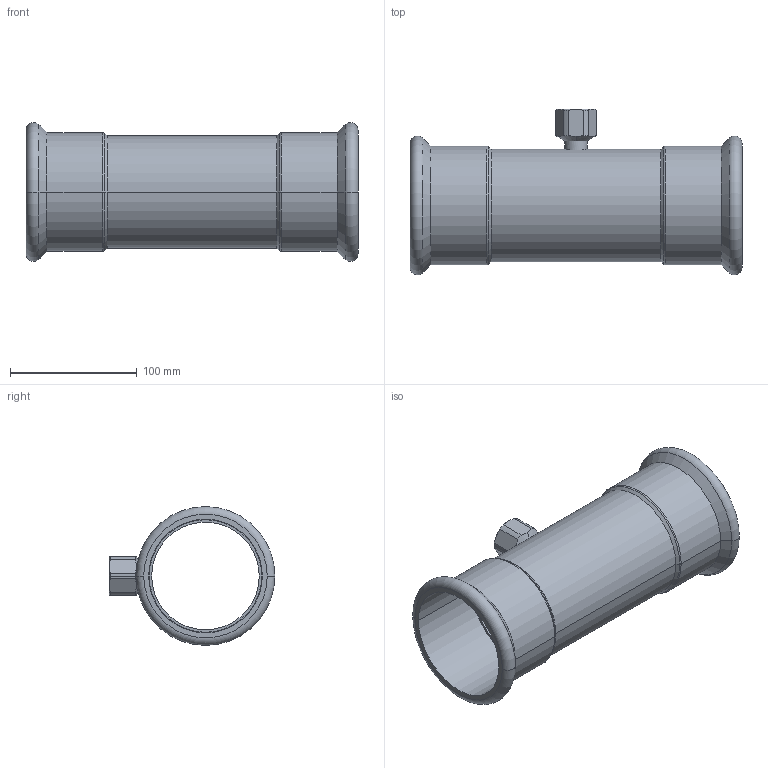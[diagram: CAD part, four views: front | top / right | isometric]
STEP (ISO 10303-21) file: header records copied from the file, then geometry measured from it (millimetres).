
FILE_DESCRIPTION(('CoCreate Modeling STEP Export'),'2;1');
FILE_NAME('C1418 88.9xRp3-4x88.9.stp','2014-11-12T15:22:57',(''),(''),'CoCreate Modeling STEP processor for AP214 (Solid Model)','CoCreate Modeling 17.00A 17-Jun-2010 (C) Parametric Technology GmbH','');
FILE_SCHEMA(('AUTOMOTIVE_DESIGN { 1 0 10303 214 1 1 1 1 }'));
Length unit declared in the file: millimetre
Products named in the file (2): C1418_89xRp3-4x89
Assembly tree (1 placements, depth 2):
  C1418_89xRp3-4x89
    C1418_89xRp3-4x89
Bounding box: 262 x 130.74 x 109.48 mm (x, y, z)
Volume: 213956.4 mm3; surface area: 162033 mm2
Topology: 1 solids, 1 shells, 64 faces, 153 edges, 95 vertices
Faces by surface type: cylinder 30, plane 14, cone 12, torus 8
Entity records: 3060 total; most frequent: CARTESIAN_POINT 1711, ORIENTED_EDGE 306, DIRECTION 228, EDGE_CURVE 153, VERTEX_POINT 95, AXIS2_PLACEMENT_3D 90, EDGE_LOOP 72, FACE_OUTER_BOUND 64
